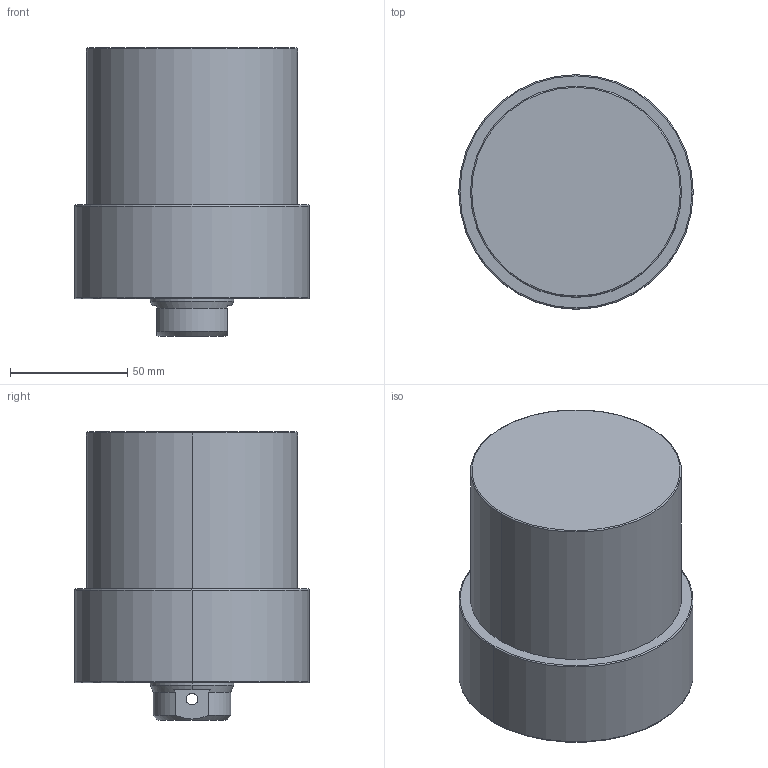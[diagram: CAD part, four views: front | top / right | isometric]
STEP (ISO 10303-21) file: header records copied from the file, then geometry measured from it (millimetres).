
FILE_DESCRIPTION (( 'STEP AP203' ), '1' );
FILE_NAME ('CLLU-090GB-045.STEP', '2020-01-11T00:57:37', ( '' ), ( '' ), 'SwSTEP 2.0', 'SolidWorks 2015', '' );
FILE_SCHEMA (( 'CONFIG_CONTROL_DESIGN' ));
Length unit declared in the file: millimetre
Products named in the file (1): CLLU-090GB-045
Bounding box: 100 x 100 x 123 mm (x, y, z)
Volume: 735695.4 mm3; surface area: 53916.4 mm2
Topology: 1 solids, 1 shells, 66 faces, 154 edges, 87 vertices
Faces by surface type: cylinder 26, cone 24, plane 10, torus 6
Entity records: 2029 total; most frequent: CARTESIAN_POINT 458, DIRECTION 342, ORIENTED_EDGE 288, EDGE_CURVE 144, AXIS2_PLACEMENT_3D 143, VERTEX_POINT 87, EDGE_LOOP 77, CIRCLE 76
